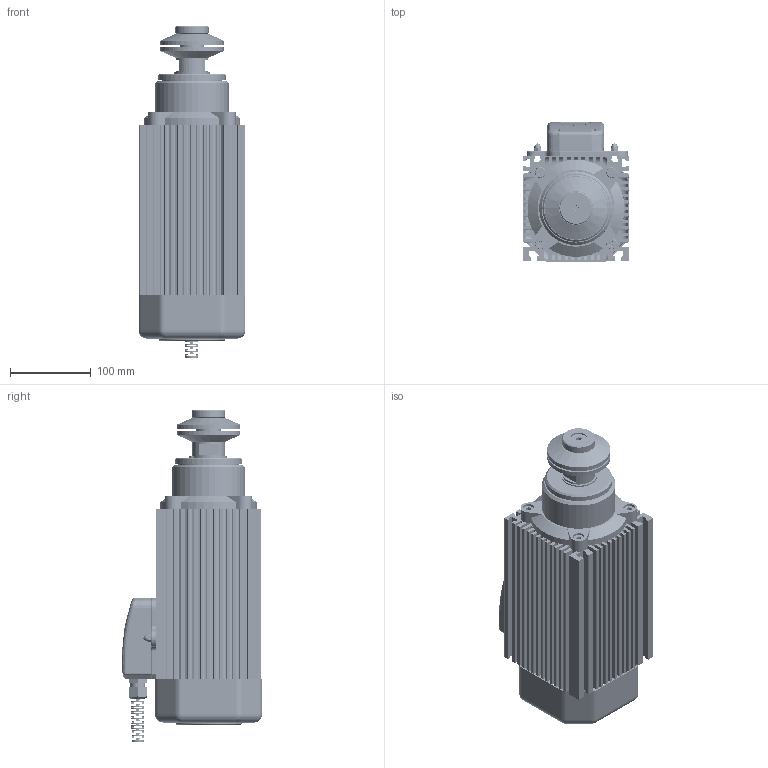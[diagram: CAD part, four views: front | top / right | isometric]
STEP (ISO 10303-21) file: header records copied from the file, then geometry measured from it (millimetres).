
FILE_DESCRIPTION (( 'STEP AP203' ), '1' );
FILE_NAME ('ARFM.4K-M Flanslý.STEP', '2022-04-04T11:54:21', ( '' ), ( '' ), 'SwSTEP 2.0', 'SolidWorks 2014', '' );
FILE_SCHEMA (( 'CONFIG_CONTROL_DESIGN' ));
Length unit declared in the file: millimetre
Products named in the file (25): klemens kutusu montaj tabansýz; 471-40 Sekman_98541A156; Klemens Kutusu  alt tabansýz; Arfm.4K Plastik Tas Kapak; M10x20 inpus havsa; M4x10 inpus_91290A176; rekor2; Flanþ Göbek 30mm; no1 motor klemensi; 4K Klemens Kutusu Montaj; Arfm.4K-M Gövdesi; Arfm.4K Plastik Klemens Altlýk; Klemens Kutusu Kapaðý Kademeli; Arfm.4K Ön Toz Kapaðý; ARFM.4K-M  Flanslý; Yukseltme Parcasi; rekor3; Flans Pulu; M5x10 inpus_91290A252; Arfm.4K Ön Kapak Çift Bilyalý; M8x20 inpus_96144A215; Somun M5 K顤; rekor1; Arfm.4K-L Cap 30 Boy 29; Somun M5_90592A095
Assembly tree (42 placements, depth 4):
  ARFM.4K-M  Flanslý
    Arfm.4K-M Gövdesi
    Arfm.4K Ön Kapak Çift Bilyalý
    Arfm.4K Plastik Tas Kapak
    Arfm.4K Ön Toz Kapaðý
    Arfm.4K-L Cap 30 Boy 29
    Flanþ Göbek 30mm  x2
    Flans Pulu
    471-40 Sekman_98541A156
    4K Klemens Kutusu Montaj
      Arfm.4K Plastik Klemens Altlýk
      Somun M5 K顤  x3
      M4x10 inpus_91290A176  x4
      Yukseltme Parcasi  x4
      Somun M5_90592A095  x6
      no1 motor klemensi
      M5x10 inpus_91290A252  x2
      klemens kutusu montaj tabansýz
        Klemens Kutusu  alt tabansýz
        Klemens Kutusu Kapaðý Kademeli
        rekor1
        rekor2
        rekor3
    M8x20 inpus_96144A215  x4
    M10x20 inpus havsa
Bounding box: 132 x 172.94 x 410.01 mm (x, y, z)
Volume: 1628955.4 mm3; surface area: 672326.1 mm2
Topology: 58 solids, 58 shells, 3941 faces, 10651 edges, 6825 vertices
Faces by surface type: cylinder 1779, plane 1384, cone 567, bspline 136, torus 45, sphere 30
Entity records: 109025 total; most frequent: CARTESIAN_POINT 36022, ORIENTED_EDGE 15504, DIRECTION 13680, EDGE_CURVE 7752, VERTEX_POINT 5001, AXIS2_PLACEMENT_3D 4803, LINE 4074, VECTOR 4074
